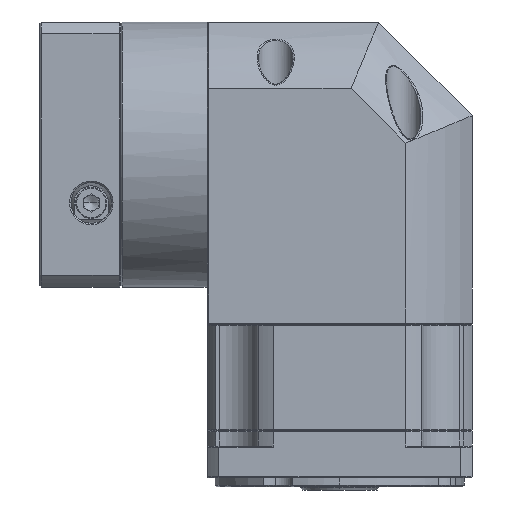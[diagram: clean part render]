
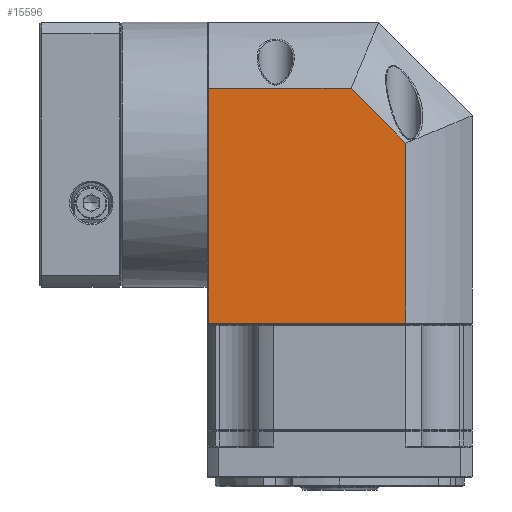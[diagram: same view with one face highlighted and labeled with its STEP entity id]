
A CAD part, left-side view. The second image highlights one B-rep face of the part: STEP entity #15596.
In plain terms, the highlighted planar face has unit normal (-1, 0, 0).
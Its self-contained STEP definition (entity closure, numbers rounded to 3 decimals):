
#1898 = LINE ( 'NONE', #105094, #35712 ) ;
#5985 = VECTOR ( 'NONE', #44976, 1000. ) ;
#10372 = EDGE_LOOP ( 'NONE', ( #114521, #39128, #22270, #89739, #61811 ) ) ;
#13985 = VERTEX_POINT ( 'NONE', #103897 ) ;
#15596 = ADVANCED_FACE ( 'NONE', ( #89280 ), #63609, .F. ) ;
#22248 = DIRECTION ( 'NONE',  ( 0., -1., 0. ) ) ;
#22270 = ORIENTED_EDGE ( 'NONE', *, *, #34971, .F. ) ;
#23728 = EDGE_CURVE ( 'NONE', #57537, #111432, #98587, .T. ) ;
#28766 = CARTESIAN_POINT ( 'NONE',  ( -98.744, -11.234, 66.778 ) ) ;
#33368 = LINE ( 'NONE', #34704, #5985 ) ;
#34704 = CARTESIAN_POINT ( 'NONE',  ( -98.744, 51.979, 63.278 ) ) ;
#34971 = EDGE_CURVE ( 'NONE', #71699, #13985, #95876, .T. ) ;
#35712 = VECTOR ( 'NONE', #22248, 1000. ) ;
#37910 = VECTOR ( 'NONE', #67239, 1000. ) ;
#39128 = ORIENTED_EDGE ( 'NONE', *, *, #93137, .F. ) ;
#40751 = CARTESIAN_POINT ( 'NONE',  ( -98.744, 51.979, 41.991 ) ) ;
#44976 = DIRECTION ( 'NONE',  ( 0., 0., 1. ) ) ;
#55508 = VECTOR ( 'NONE', #89059, 1000. ) ;
#55552 = CARTESIAN_POINT ( 'NONE',  ( -98.744, 6.297, 41.991 ) ) ;
#56680 = VECTOR ( 'NONE', #64895, 1000. ) ;
#57537 = VERTEX_POINT ( 'NONE', #72621 ) ;
#61811 = ORIENTED_EDGE ( 'NONE', *, *, #113042, .F. ) ;
#63609 = PLANE ( 'NONE',  #66169 ) ;
#64895 = DIRECTION ( 'NONE',  ( 0., -1., 0. ) ) ;
#66169 = AXIS2_PLACEMENT_3D ( 'NONE', #86104, #106867, #117605 ) ;
#67239 = DIRECTION ( 'NONE',  ( 0., -0.707, -0.707 ) ) ;
#71585 = LINE ( 'NONE', #28766, #55508 ) ;
#71699 = VERTEX_POINT ( 'NONE', #106145 ) ;
#72621 = CARTESIAN_POINT ( 'NONE',  ( -98.744, 51.979, -33.222 ) ) ;
#73543 = VERTEX_POINT ( 'NONE', #40751 ) ;
#86104 = CARTESIAN_POINT ( 'NONE',  ( -98.744, 52.479, 63.278 ) ) ;
#89059 = DIRECTION ( 'NONE',  ( 0., 0., -1. ) ) ;
#89280 = FACE_OUTER_BOUND ( 'NONE', #10372, .T. ) ;
#89739 = ORIENTED_EDGE ( 'NONE', *, *, #93987, .F. ) ;
#93137 = EDGE_CURVE ( 'NONE', #13985, #111432, #71585, .T. ) ;
#93987 = EDGE_CURVE ( 'NONE', #73543, #71699, #1898, .T. ) ;
#95876 = LINE ( 'NONE', #55552, #37910 ) ;
#96923 = CARTESIAN_POINT ( 'NONE',  ( -98.744, 52.479, -33.222 ) ) ;
#98587 = LINE ( 'NONE', #96923, #56680 ) ;
#103897 = CARTESIAN_POINT ( 'NONE',  ( -98.744, -11.234, 24.461 ) ) ;
#105094 = CARTESIAN_POINT ( 'NONE',  ( -98.744, 52.479, 41.991 ) ) ;
#106145 = CARTESIAN_POINT ( 'NONE',  ( -98.744, 6.297, 41.991 ) ) ;
#106836 = CARTESIAN_POINT ( 'NONE',  ( -98.744, -11.234, -33.222 ) ) ;
#106867 = DIRECTION ( 'NONE',  ( 1., 0., 0. ) ) ;
#111432 = VERTEX_POINT ( 'NONE', #106836 ) ;
#113042 = EDGE_CURVE ( 'NONE', #57537, #73543, #33368, .T. ) ;
#114521 = ORIENTED_EDGE ( 'NONE', *, *, #23728, .T. ) ;
#117605 = DIRECTION ( 'NONE',  ( 0., 1., 0. ) ) ;
